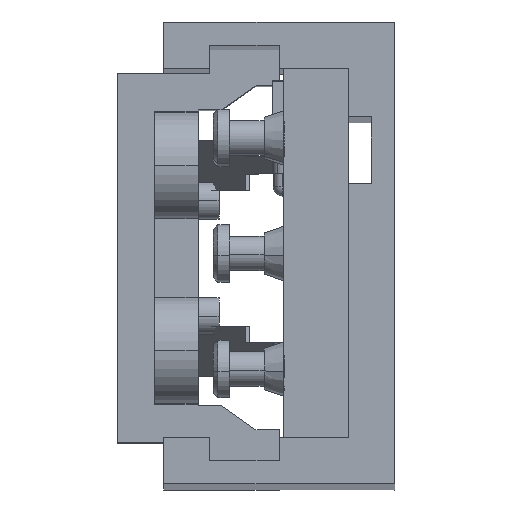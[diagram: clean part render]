
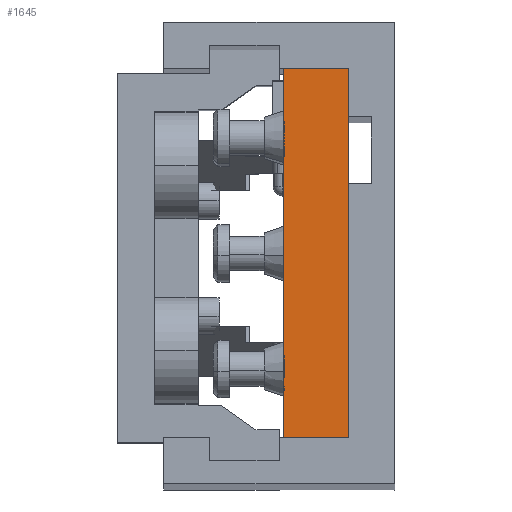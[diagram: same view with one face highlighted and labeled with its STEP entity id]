
A CAD part, top view. The second image highlights one B-rep face of the part: STEP entity #1645.
In plain terms, the highlighted planar face has unit normal (0, 0, 1).
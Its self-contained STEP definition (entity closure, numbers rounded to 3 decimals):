
#1637 = EDGE_CURVE ( 'NONE', #1665, #15559, #2070, .T. ) ;
#1638 = ORIENTED_EDGE ( 'NONE', *, *, #15622, .T. ) ;
#1639 = EDGE_LOOP ( 'NONE', ( #1638, #1642, #1695, #13362 ) ) ;
#1642 = ORIENTED_EDGE ( 'NONE', *, *, #1660, .T. ) ;
#1645 = ADVANCED_FACE ( 'NONE', ( #2129 ), #2123, .F. ) ;
#1656 = EDGE_CURVE ( 'NONE', #1671, #1665, #2099, .T. ) ;
#1660 = EDGE_CURVE ( 'NONE', #15629, #1671, #2162, .T. ) ;
#1665 = VERTEX_POINT ( 'NONE', #2149 ) ;
#1671 = VERTEX_POINT ( 'NONE', #2140 ) ;
#1695 = ORIENTED_EDGE ( 'NONE', *, *, #1656, .T. ) ;
#2067 = DIRECTION ( 'NONE',  ( -1., 0., 0. ) ) ;
#2068 = VECTOR ( 'NONE', #2067, 1000. ) ;
#2069 = CARTESIAN_POINT ( 'NONE',  ( 0., 8., 65. ) ) ;
#2070 = LINE ( 'NONE', #2069, #2068 ) ;
#2096 = DIRECTION ( 'NONE',  ( 0., 1., 0. ) ) ;
#2097 = VECTOR ( 'NONE', #2096, 1000. ) ;
#2098 = CARTESIAN_POINT ( 'NONE',  ( 2.8, -8., 65. ) ) ;
#2099 = LINE ( 'NONE', #2098, #2097 ) ;
#2119 = DIRECTION ( 'NONE',  ( -1., 0., 0. ) ) ;
#2120 = DIRECTION ( 'NONE',  ( 0., 0., -1. ) ) ;
#2121 = CARTESIAN_POINT ( 'NONE',  ( 0., 8., 65. ) ) ;
#2122 = AXIS2_PLACEMENT_3D ( 'NONE', #2121, #2120, #2119 ) ;
#2123 = PLANE ( 'NONE',  #2122 ) ;
#2129 = FACE_OUTER_BOUND ( 'NONE', #1639, .T. ) ;
#2140 = CARTESIAN_POINT ( 'NONE',  ( 2.8, -8., 65. ) ) ;
#2149 = CARTESIAN_POINT ( 'NONE',  ( 2.8, 8., 65. ) ) ;
#2159 = DIRECTION ( 'NONE',  ( 1., 0., 0. ) ) ;
#2160 = VECTOR ( 'NONE', #2159, 1000. ) ;
#2161 = CARTESIAN_POINT ( 'NONE',  ( 0., -8., 65. ) ) ;
#2162 = LINE ( 'NONE', #2161, #2160 ) ;
#13362 = ORIENTED_EDGE ( 'NONE', *, *, #1637, .T. ) ;
#15559 = VERTEX_POINT ( 'NONE', #24576 ) ;
#15622 = EDGE_CURVE ( 'NONE', #15559, #15629, #24822, .T. ) ;
#15629 = VERTEX_POINT ( 'NONE', #24808 ) ;
#24576 = CARTESIAN_POINT ( 'NONE',  ( 0., 8., 65. ) ) ;
#24808 = CARTESIAN_POINT ( 'NONE',  ( 0., -8., 65. ) ) ;
#24819 = DIRECTION ( 'NONE',  ( 0., -1., 0. ) ) ;
#24820 = VECTOR ( 'NONE', #24819, 1000. ) ;
#24821 = CARTESIAN_POINT ( 'NONE',  ( 0., -8., 65. ) ) ;
#24822 = LINE ( 'NONE', #24821, #24820 ) ;
